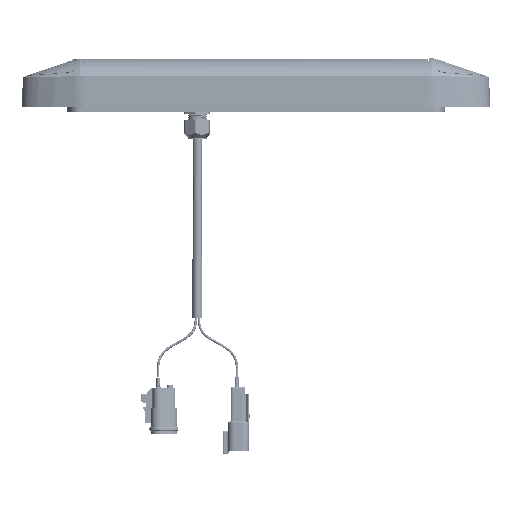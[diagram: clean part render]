
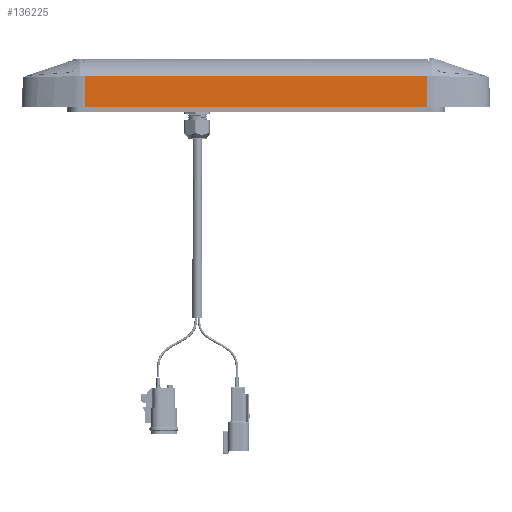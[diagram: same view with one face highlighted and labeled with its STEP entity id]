
A CAD part, left-side view. The second image highlights one B-rep face of the part: STEP entity #136225.
In plain terms, the highlighted planar face has unit normal (-1, 0, 0.026).
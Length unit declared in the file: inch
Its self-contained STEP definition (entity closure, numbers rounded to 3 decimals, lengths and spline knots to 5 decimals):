
#2516 = LINE ( 'NONE', #127092, #75614 ) ;
#5353 = VECTOR ( 'NONE', #55292, 39.37008 ) ;
#6088 = VERTEX_POINT ( 'NONE', #151718 ) ;
#8400 = CARTESIAN_POINT ( 'NONE',  ( -0.871, 4.369, 0. ) ) ;
#11487 = CARTESIAN_POINT ( 'NONE',  ( -0.85057, 4.369, 0.78028 ) ) ;
#12150 = DIRECTION ( 'NONE',  ( -1., 0., 0.026 ) ) ;
#13974 = VERTEX_POINT ( 'NONE', #130664 ) ;
#18364 = VECTOR ( 'NONE', #70681, 39.37008 ) ;
#27948 = LINE ( 'NONE', #78598, #5353 ) ;
#38682 = EDGE_CURVE ( 'NONE', #13974, #6088, #27948, .T. ) ;
#48523 = CARTESIAN_POINT ( 'NONE',  ( -0.85057, -4.369, 0.78028 ) ) ;
#50684 = DIRECTION ( 'NONE',  ( 0.026, 0., 1. ) ) ;
#51628 = ORIENTED_EDGE ( 'NONE', *, *, #154445, .F. ) ;
#55292 = DIRECTION ( 'NONE',  ( 0., -1., 0. ) ) ;
#67566 = VERTEX_POINT ( 'NONE', #48523 ) ;
#70681 = DIRECTION ( 'NONE',  ( 0.026, 0., 1. ) ) ;
#75614 = VECTOR ( 'NONE', #50684, 39.37008 ) ;
#78598 = CARTESIAN_POINT ( 'NONE',  ( -0.871, 0., 0. ) ) ;
#88687 = LINE ( 'NONE', #11487, #132922 ) ;
#94853 = AXIS2_PLACEMENT_3D ( 'NONE', #125925, #12150, #124284 ) ;
#95589 = LINE ( 'NONE', #8400, #18364 ) ;
#116897 = EDGE_CURVE ( 'NONE', #13974, #163285, #95589, .T. ) ;
#123202 = EDGE_LOOP ( 'NONE', ( #51628, #126083, #137534, #132903 ) ) ;
#124284 = DIRECTION ( 'NONE',  ( 0.026, 0., 1. ) ) ;
#125925 = CARTESIAN_POINT ( 'NONE',  ( -0.871, 0., 0. ) ) ;
#126083 = ORIENTED_EDGE ( 'NONE', *, *, #116897, .F. ) ;
#127092 = CARTESIAN_POINT ( 'NONE',  ( -0.871, -4.369, 0. ) ) ;
#130664 = CARTESIAN_POINT ( 'NONE',  ( -0.871, 4.369, 0. ) ) ;
#132903 = ORIENTED_EDGE ( 'NONE', *, *, #140153, .T. ) ;
#132922 = VECTOR ( 'NONE', #152657, 39.37008 ) ;
#136225 = ADVANCED_FACE ( 'NONE', ( #162575 ), #137594, .T. ) ;
#137534 = ORIENTED_EDGE ( 'NONE', *, *, #38682, .T. ) ;
#137594 = PLANE ( 'NONE',  #94853 ) ;
#140153 = EDGE_CURVE ( 'NONE', #6088, #67566, #2516, .T. ) ;
#149022 = CARTESIAN_POINT ( 'NONE',  ( -0.85057, 4.369, 0.78028 ) ) ;
#151718 = CARTESIAN_POINT ( 'NONE',  ( -0.871, -4.369, 0. ) ) ;
#152657 = DIRECTION ( 'NONE',  ( 0., -1., 0. ) ) ;
#154445 = EDGE_CURVE ( 'NONE', #163285, #67566, #88687, .T. ) ;
#162575 = FACE_OUTER_BOUND ( 'NONE', #123202, .T. ) ;
#163285 = VERTEX_POINT ( 'NONE', #149022 ) ;
